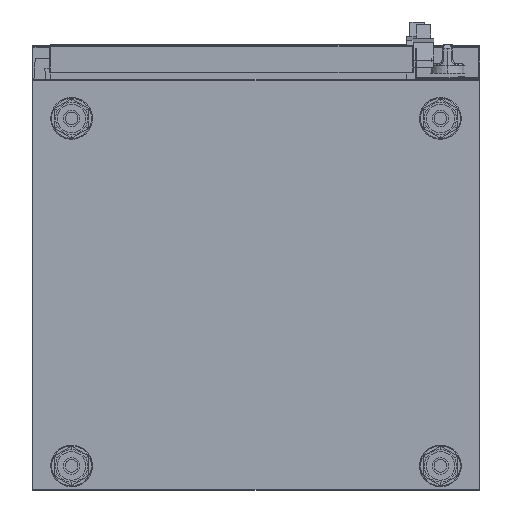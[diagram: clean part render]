
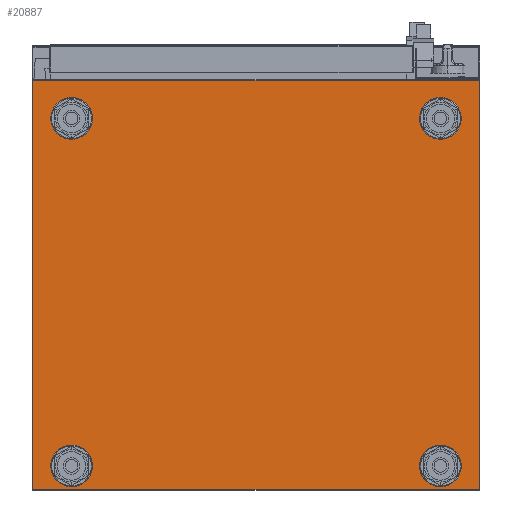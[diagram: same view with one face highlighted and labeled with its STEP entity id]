
A CAD part, front view. The second image highlights one B-rep face of the part: STEP entity #20887.
In plain terms, the highlighted planar face has unit normal (0, -1, 0).
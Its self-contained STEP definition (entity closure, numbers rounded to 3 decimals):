
#18944=CARTESIAN_POINT('',(-267.75,-372.25,57.));
#18945=DIRECTION('',(0.,1.,0.));
#18946=DIRECTION('',(1.,0.,0.));
#18947=AXIS2_PLACEMENT_3D('',#18944,#18945,#18946);
#18949=CARTESIAN_POINT('',(-267.75,-372.25,57.));
#18950=DIRECTION('',(0.,1.,0.));
#18951=DIRECTION('',(-1.,0.,0.));
#18952=AXIS2_PLACEMENT_3D('',#18949,#18950,#18951);
#18954=CARTESIAN_POINT('',(267.75,-372.25,57.));
#18955=DIRECTION('',(0.,1.,0.));
#18956=DIRECTION('',(1.,0.,0.));
#18957=AXIS2_PLACEMENT_3D('',#18954,#18955,#18956);
#18959=CARTESIAN_POINT('',(267.75,-372.25,57.));
#18960=DIRECTION('',(0.,1.,0.));
#18961=DIRECTION('',(-1.,0.,0.));
#18962=AXIS2_PLACEMENT_3D('',#18959,#18960,#18961);
#18964=CARTESIAN_POINT('',(-267.75,-372.25,561.5));
#18965=DIRECTION('',(0.,1.,0.));
#18966=DIRECTION('',(1.,0.,0.));
#18967=AXIS2_PLACEMENT_3D('',#18964,#18965,#18966);
#18969=CARTESIAN_POINT('',(-267.75,-372.25,561.5));
#18970=DIRECTION('',(0.,1.,0.));
#18971=DIRECTION('',(-1.,0.,0.));
#18972=AXIS2_PLACEMENT_3D('',#18969,#18970,#18971);
#18974=CARTESIAN_POINT('',(267.75,-372.25,561.5));
#18975=DIRECTION('',(0.,1.,0.));
#18976=DIRECTION('',(1.,0.,0.));
#18977=AXIS2_PLACEMENT_3D('',#18974,#18975,#18976);
#18979=CARTESIAN_POINT('',(267.75,-372.25,561.5));
#18980=DIRECTION('',(0.,1.,0.));
#18981=DIRECTION('',(-1.,0.,0.));
#18982=AXIS2_PLACEMENT_3D('',#18979,#18980,#18981);
#18984=DIRECTION('',(-1.,0.,0.));
#18985=VECTOR('',#18984,647.6);
#18986=CARTESIAN_POINT('',(323.8,-372.25,595.3));
#18987=LINE('',#18986,#18985);
#18988=DIRECTION('',(0.,0.,1.));
#18989=VECTOR('',#18988,594.1);
#18990=CARTESIAN_POINT('',(323.8,-372.25,1.2));
#18991=LINE('',#18990,#18989);
#18992=DIRECTION('',(1.,0.,0.));
#18993=VECTOR('',#18992,647.6);
#18994=CARTESIAN_POINT('',(-323.8,-372.25,1.2));
#18995=LINE('',#18994,#18993);
#18996=DIRECTION('',(0.,0.,1.));
#18997=VECTOR('',#18996,594.1);
#18998=CARTESIAN_POINT('',(-323.8,-372.25,1.2));
#18999=LINE('',#18998,#18997);
#19946=CARTESIAN_POINT('',(-237.6,-372.25,57.));
#19947=CARTESIAN_POINT('',(-297.9,-372.25,57.));
#19948=VERTEX_POINT('',#19946);
#19949=VERTEX_POINT('',#19947);
#19950=CARTESIAN_POINT('',(297.9,-372.25,57.));
#19951=CARTESIAN_POINT('',(237.6,-372.25,57.));
#19952=VERTEX_POINT('',#19950);
#19953=VERTEX_POINT('',#19951);
#19954=CARTESIAN_POINT('',(-237.6,-372.25,561.5));
#19955=CARTESIAN_POINT('',(-297.9,-372.25,561.5));
#19956=VERTEX_POINT('',#19954);
#19957=VERTEX_POINT('',#19955);
#19958=CARTESIAN_POINT('',(297.9,-372.25,561.5));
#19959=CARTESIAN_POINT('',(237.6,-372.25,561.5));
#19960=VERTEX_POINT('',#19958);
#19961=VERTEX_POINT('',#19959);
#20042=CARTESIAN_POINT('',(323.8,-372.25,595.3));
#20043=CARTESIAN_POINT('',(-323.8,-372.25,595.3));
#20044=VERTEX_POINT('',#20042);
#20045=VERTEX_POINT('',#20043);
#20050=CARTESIAN_POINT('',(-323.8,-372.25,1.2));
#20051=CARTESIAN_POINT('',(323.8,-372.25,1.2));
#20052=VERTEX_POINT('',#20050);
#20053=VERTEX_POINT('',#20051);
#20849=CARTESIAN_POINT('',(-325.,-372.25,0.));
#20850=DIRECTION('',(0.,1.,0.));
#20851=DIRECTION('',(1.,0.,0.));
#20852=AXIS2_PLACEMENT_3D('',#20849,#20850,#20851);
#20853=PLANE('',#20852);
#20855=ORIENTED_EDGE('',*,*,#20854,.F.);
#20857=ORIENTED_EDGE('',*,*,#20856,.F.);
#20858=ORIENTED_EDGE('',*,*,#20839,.F.);
#20860=ORIENTED_EDGE('',*,*,#20859,.T.);
#20861=EDGE_LOOP('',(#20855,#20857,#20858,#20860));
#20862=FACE_OUTER_BOUND('',#20861,.F.);
#20864=ORIENTED_EDGE('',*,*,#20863,.F.);
#20866=ORIENTED_EDGE('',*,*,#20865,.F.);
#20867=EDGE_LOOP('',(#20864,#20866));
#20868=FACE_BOUND('',#20867,.F.);
#20870=ORIENTED_EDGE('',*,*,#20869,.F.);
#20872=ORIENTED_EDGE('',*,*,#20871,.F.);
#20873=EDGE_LOOP('',(#20870,#20872));
#20874=FACE_BOUND('',#20873,.F.);
#20876=ORIENTED_EDGE('',*,*,#20875,.F.);
#20878=ORIENTED_EDGE('',*,*,#20877,.F.);
#20879=EDGE_LOOP('',(#20876,#20878));
#20880=FACE_BOUND('',#20879,.F.);
#20882=ORIENTED_EDGE('',*,*,#20881,.F.);
#20884=ORIENTED_EDGE('',*,*,#20883,.F.);
#20885=EDGE_LOOP('',(#20882,#20884));
#20886=FACE_BOUND('',#20885,.F.);
#18948=CIRCLE('',#18947,30.15);
#18953=CIRCLE('',#18952,30.15);
#18958=CIRCLE('',#18957,30.15);
#18963=CIRCLE('',#18962,30.15);
#18968=CIRCLE('',#18967,30.15);
#18973=CIRCLE('',#18972,30.15);
#18978=CIRCLE('',#18977,30.15);
#18983=CIRCLE('',#18982,30.15);
#20839=EDGE_CURVE('',#20052,#20053,#18995,.T.);
#20854=EDGE_CURVE('',#20044,#20045,#18987,.T.);
#20856=EDGE_CURVE('',#20053,#20044,#18991,.T.);
#20859=EDGE_CURVE('',#20052,#20045,#18999,.T.);
#20863=EDGE_CURVE('',#19952,#19953,#18958,.T.);
#20865=EDGE_CURVE('',#19953,#19952,#18963,.T.);
#20869=EDGE_CURVE('',#19956,#19957,#18968,.T.);
#20871=EDGE_CURVE('',#19957,#19956,#18973,.T.);
#20875=EDGE_CURVE('',#19960,#19961,#18978,.T.);
#20877=EDGE_CURVE('',#19961,#19960,#18983,.T.);
#20881=EDGE_CURVE('',#19948,#19949,#18948,.T.);
#20883=EDGE_CURVE('',#19949,#19948,#18953,.T.);
#20887=ADVANCED_FACE('',(#20862,#20868,#20874,#20880,#20886),#20853,.F.);
